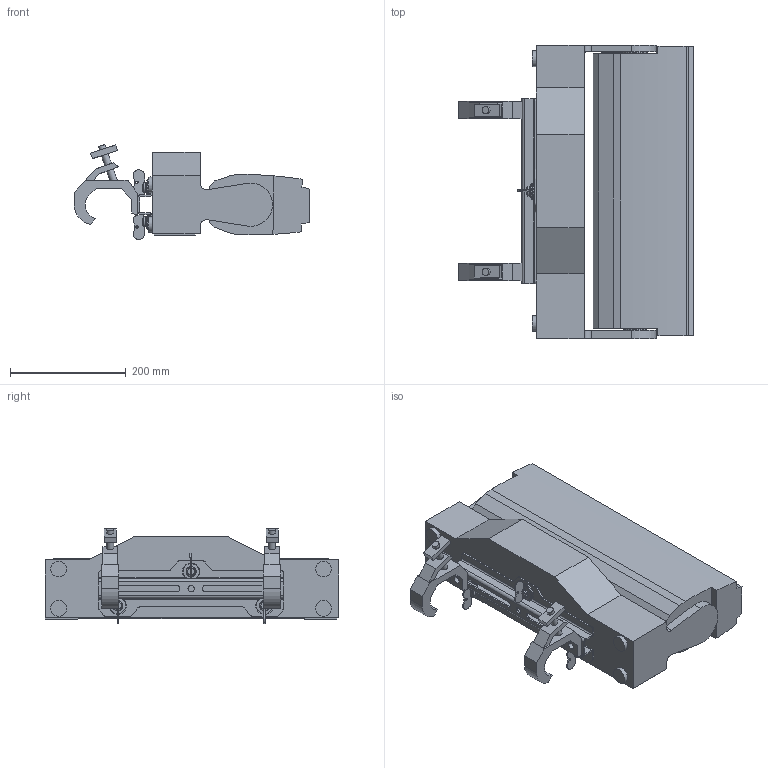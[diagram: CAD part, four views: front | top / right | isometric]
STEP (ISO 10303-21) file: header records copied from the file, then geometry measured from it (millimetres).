
FILE_DESCRIPTION(/* description */ ('Unknown'),/* implementation_level */ '2;1');
FILE_NAME(/* name */ '3D_TETRA1_with CL',/* time_stamp */ '2020-02-20T16:13:02+01:00',/* author */ ('Ing.Rostislav HĂˇba'),/* organization */ ('ROBE lighting'),/* preprocessor_version */ 'ST-DEVELOPER v16.7',/* originating_system */ 'Solid Edge',/* authorisation */ 'Unknown');
FILE_SCHEMA (('AUTOMOTIVE_DESIGN {1 0 10303 214 3 1 1}'));
Length unit declared in the file: millimetre
Products named in the file (12): 3D_TETRA1; TETRA1_Base; TETRA1_Head; 99016241 Kotevní závìs s CAMLOC 9 - TT; 11017080 Z嫛鮀 TT; 17030135 Talíøová pružina 28; 17030152 Kolík 4x14 DIN1475; 18060293 Šroub CAMLOC 9 s køidélkem - jednostranný; 18060287 Šroub CAMLOC 9+; 11017078 Køidelko CAMLOC 9 - jednostranné; 11017079 Podložení pružin Camlock; Clamp Doughty Slimline QT
Assembly tree (26 placements, depth 4):
  3D_TETRA1
    TETRA1_Base
    TETRA1_Head
    99016241 Kotevní závìs s CAMLOC 9 - TT
      11017080 Z嫛鮀 TT
      17030135 Talíøová pružina 28  x9
      17030152 Kolík 4x14 DIN1475  x3
      18060293 Šroub CAMLOC 9 s køidélkem - jednostranný  x3
        18060287 Šroub CAMLOC 9+
        11017078 Køidelko CAMLOC 9 - jednostranné
      11017079 Podložení pružin Camlock  x3
    Clamp Doughty Slimline QT  x2
Bounding box: 407.21 x 508 x 164.56 mm (x, y, z)
Volume: 13417031.1 mm3; surface area: 702088.2 mm2
Topology: 26 solids, 26 shells, 509 faces, 1278 edges, 845 vertices
Faces by surface type: plane 279, cylinder 150, cone 39, bspline 32, torus 9
Full cylindrical faces by diameter (mm): 4 x6, 4.2 x3, 9.5 x3, 10 x3, 10.2 x9, 11 x7, 12 x8, 17.5 x6, 27.261 x4, 28 x9, 30 x3, 37 x2, 40 x2
Entity records: 10875 total; most frequent: CARTESIAN_POINT 2221, DIRECTION 1742, ORIENTED_EDGE 1660, EDGE_CURVE 830, AXIS2_PLACEMENT_3D 593, VERTEX_POINT 570, LINE 556, VECTOR 556
